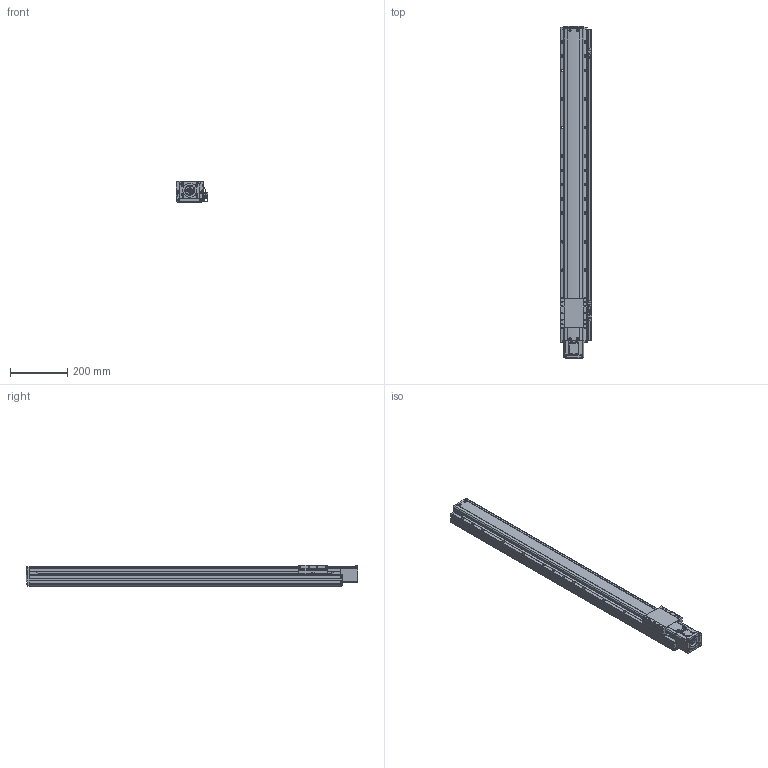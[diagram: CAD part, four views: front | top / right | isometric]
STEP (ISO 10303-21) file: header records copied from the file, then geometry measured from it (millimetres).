
FILE_DESCRIPTION(('STEP AP214'),'1');
FILE_NAME('Z:/Web/3D/PSA95/STP/PSA95-900 (3D)/PSA95ㅁㅁ-900S+3SR.stp','2014-07-03T00:52:29',(' '),(' '),'Spatial InterOp 3D',' ',' ');
FILE_SCHEMA(('automotive_design'));
Length unit declared in the file: millimetre
Products named in the file (53): BASE; RRCV; 스크루 : Round - M4.0 x 10.0; 너트 : Square - M10.0 x 220.7419; RR1500; FRCV-090; 스크루 : Round - M4.0 x 6.0; SLBL-PA90; SSFX-SAN65; CPLCV-SAN65; 스크루 : Round - M3.0 x 6.0; MTHZ-PA70/90-S60A-3; 스크루 : Socket - M4.0 x 20.0; NONE; EE-SX674; SBK-SX674-352; M3.0 x 6.0; SRL-16x17-380L; SGD-PA95; 스크루 : Round - M3.0 x 8.0
Bounding box: 111 x 1162.5 x 74 mm (x, y, z)
Volume: 6195408.9 mm3; surface area: 763641.1 mm2
Topology: 53 solids, 87 shells, 3652 faces, 9400 edges, 5956 vertices
Faces by surface type: plane 1823, cylinder 1142, cone 431, torus 158, sphere 66, bspline 32
Entity records: 144086 total; most frequent: CARTESIAN_POINT 23326, DIRECTION 19648, ORIENTED_EDGE 18464, EDGE_CURVE 9232, AXIS2_PLACEMENT_3D 7000, VERTEX_POINT 5956, LINE 5648, VECTOR 5648
